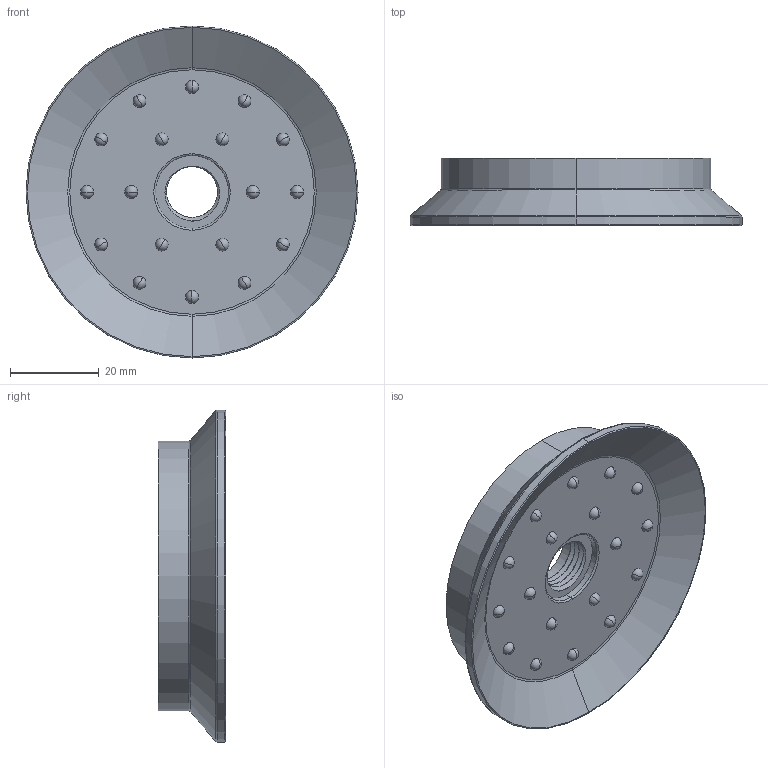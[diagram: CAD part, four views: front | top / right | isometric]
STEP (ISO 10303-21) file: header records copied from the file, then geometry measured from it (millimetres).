
FILE_DESCRIPTION (( 'STEP AP203' ), '1' );
FILE_NAME ('7SB_75--A.STEP', '2018-07-04T08:41:59', ( '' ), ( '' ), 'SwSTEP 2.0', 'SolidWorks 2016', '' );
FILE_SCHEMA (( 'CONFIG_CONTROL_DESIGN' ));
Length unit declared in the file: millimetre
Products named in the file (1): 7SB_75--A
Bounding box: 75.03 x 15.19 x 75.03 mm (x, y, z)
Volume: 32451.2 mm3; surface area: 21573.2 mm2
Topology: 2 solids, 2 shells, 79 faces, 239 edges, 148 vertices
Faces by surface type: sphere 36, cylinder 21, torus 10, plane 6, cone 4, bspline 2
Entity records: 3513 total; most frequent: CARTESIAN_POINT 1665, DIRECTION 420, ORIENTED_EDGE 334, AXIS2_PLACEMENT_3D 198, EDGE_CURVE 167, CIRCLE 120, VERTEX_POINT 112, EDGE_LOOP 103
